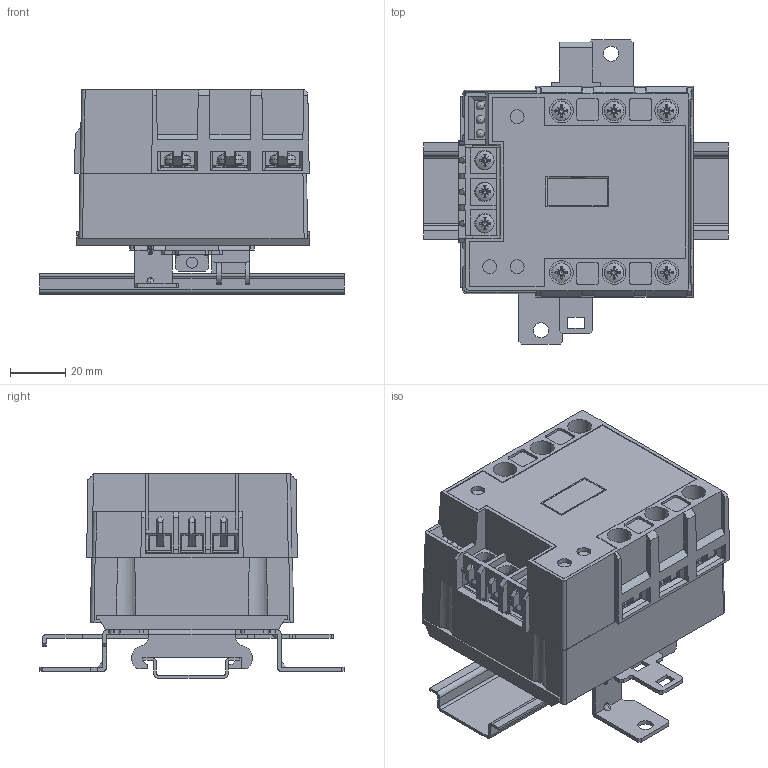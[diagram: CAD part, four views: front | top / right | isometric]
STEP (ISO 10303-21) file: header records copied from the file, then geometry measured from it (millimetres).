
FILE_DESCRIPTION(/* description */ (''),/* implementation_level */ '2;1');
FILE_NAME(/* name */ 'C:\Users\ysicot\Desktop\2D3D 658 A.stp',/* time_stamp */ '2020-06-19T08:22:05+02:00',/* author */ ('ysicot'),/* organization */ (''),/* preprocessor_version */ 'ST-DEVELOPER v17',/* originating_system */ 'Autodesk Inventor 2018',/* authorisation */ '');
FILE_SCHEMA (('CONFIG_CONTROL_DESIGN'));
Length unit declared in the file: millimetre
Products named in the file (9): SWT860330; SVT sans fixation; ISO 7045 - M5 x 8 - 4.8 - Z; ISO 7045 - M4 x 8 - 4.8 - Z; 1LD12020; 1LD10770 nervuré; 1LD20780; ressort; rail din L110
Assembly tree (15 placements, depth 3):
  SWT860330
    SVT sans fixation
    ISO 7045 - M5 x 8 - 4.8 - Z  x6
    ISO 7045 - M4 x 8 - 4.8 - Z  x3
    1LD12020
      1LD10770 nervuré
      1LD20780
      ressort
    rail din L110
Bounding box: 110 x 110 x 73.86 mm (x, y, z)
Volume: 315946.6 mm3; surface area: 80525.1 mm2
Topology: 14 solids, 19 shells, 1724 faces, 4753 edges, 3121 vertices
Faces by surface type: plane 1125, cone 279, cylinder 228, torus 45, bspline 35, sphere 12
Full cylindrical faces by diameter (mm): 2.9 x3, 3.3 x6, 3.621 x3, 4 x7, 4.3 x6, 4.567 x6, 5 x15, 5.5 x2, 7 x9, 8.6 x6
Entity records: 49543 total; most frequent: CARTESIAN_POINT 11522, ORIENTED_EDGE 7858, DIRECTION 7500, EDGE_CURVE 3929, LINE 2658, VECTOR 2658, VERTEX_POINT 2575, AXIS2_PLACEMENT_3D 2421
